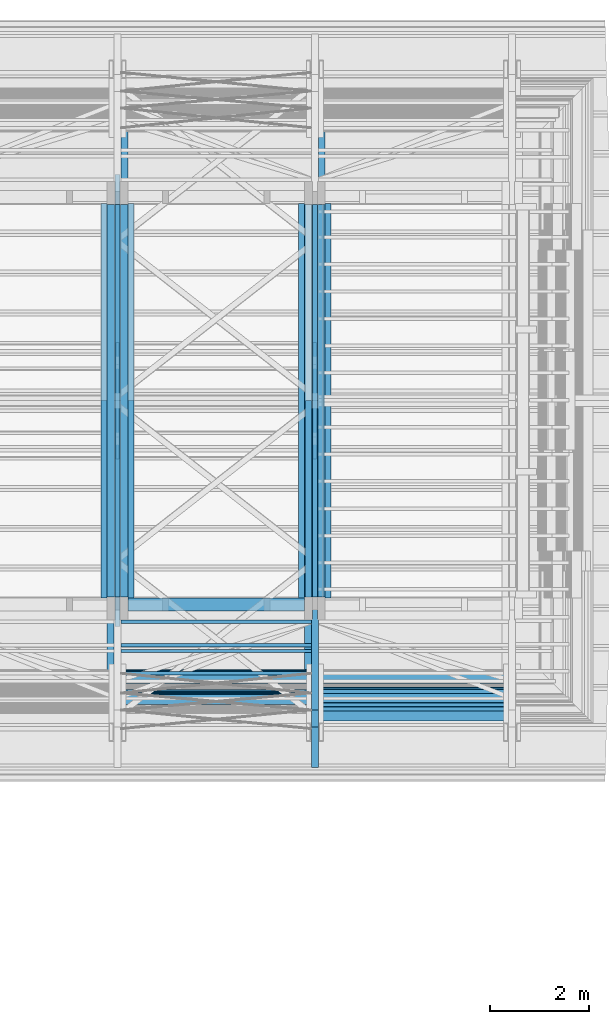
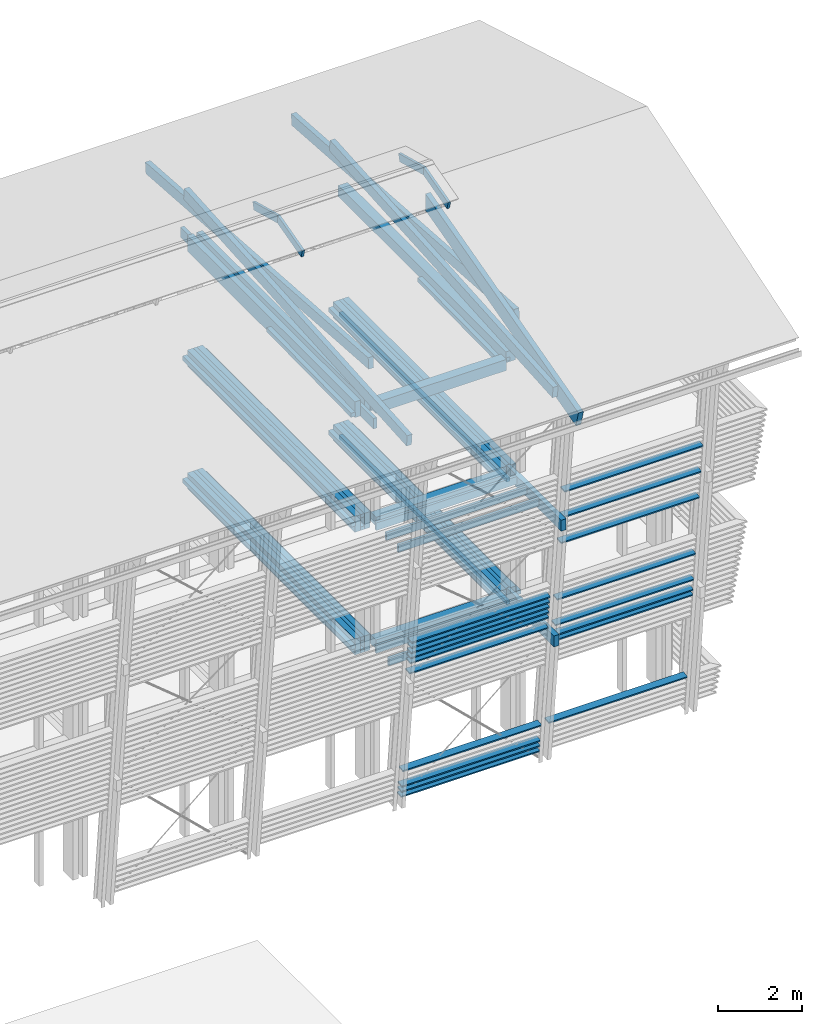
# One storey, part 20 of 48: 68 beams.
"""IFC2X3 building model written with IfcOpenShell, lengths in metres."""

from ifc_helpers import new_model, si_unit, direction, frame, origin_with_axes, place, context, subcontext, project, spatial, faceted_brep, material, element, save


model = new_model("IFC2X3")

# Units and contexts
model_context = context("Model", 3, precision=1e-06, world=origin_with_axes(), true_north=direction((0.0, 1.0, 0.0)))
body_context = subcontext(model_context, "Body", "Model", "MODEL_VIEW")
ifc_project = project(units=[si_unit("LENGTHUNIT", "METRE"), si_unit("AREAUNIT", "SQUARE_METRE"), si_unit("VOLUMEUNIT", "CUBIC_METRE"), si_unit("PLANEANGLEUNIT", "RADIAN")], contexts=[model_context])

# Site, building, storey
site_placement = place(None, origin_with_axes())
site = spatial("IfcSite", under=ifc_project, at=site_placement, CompositionType="ELEMENT")
building_placement = place(site_placement, origin_with_axes())
building = spatial("IfcBuilding", under=site, at=building_placement, Name="Building 1", CompositionType="ELEMENT")
storey_placement = place(building_placement, origin_with_axes())
storey = spatial("IfcBuildingStorey", under=building, at=storey_placement, Name="Storey 1", CompositionType="ELEMENT", Elevation=0.0)

# Beams
ifc_material_1 = material(Name="GL28h")
beam_1_placement = place(storey_placement, frame((61.7597437, -189.2071519, 10.820019), z_axis=(0.0, -0.0149983, 0.9998875), x_axis=(0.0, -0.9998875, -0.0149983)))
element("IfcBeam", 1, at=beam_1_placement, inside=storey, material=ifc_material_1, Name="Sous-glace", context=body_context, shape_type="Brep", body=[
    faceted_brep([(4.0020498, -0.06, 0.06), (4.0038498, -0.06, -0.06), (4.0038498, 0.06, -0.06), (4.0020498, 0.06, 0.06), (0.0018, -0.06, -0.06), (0.0018, 0.06, -0.06), (0.0, -0.06, 0.06), (0.0, 0.06, 0.06)], [[[0, 1, 2, 3]], [[2, 1, 4, 5]], [[1, 0, 6, 4]], [[5, 4, 6, 7]], [[3, 2, 5, 7]], [[0, 3, 7, 6]]]),
])
beam_2_placement = place(storey_placement, frame((61.6197437, -185.2264881, 3.985), z_axis=(0.0, 0.0, 1.0), x_axis=(0.0, -1.0, 0.0)))
element("IfcBeam", 2, at=beam_2_placement, inside=storey, material=ifc_material_1, Name="Sommier", context=body_context, shape_type="Brep", body=[
    faceted_brep([(7.9631634, 0.08, 0.23), (7.9631634, 0.08, -0.23), (0.0, 0.08, -0.23), (0.0, 0.08, 0.23), (0.0, -0.08, -0.23), (0.0, -0.08, 0.23), (7.9631634, -0.08, -0.23), (7.9631634, -0.08, 0.23)], [[[0, 1, 2, 3]], [[2, 4, 5, 3]], [[6, 7, 5, 4]], [[1, 6, 4, 2]], [[7, 6, 1, 0]], [[7, 0, 3, 5]]]),
])
beam_3_placement = place(storey_placement, frame((61.4897437, -185.2264881, 4.165), z_axis=(0.0, 0.0, 1.0), x_axis=(0.0, -1.0, 0.0)))
element("IfcBeam", 3, at=beam_3_placement, inside=storey, material=ifc_material_1, Name="Sommier", context=body_context, shape_type="Brep", body=[
    faceted_brep([(0.0, -0.05, -0.05), (0.0, -0.05, 0.05), (0.0, 0.05, 0.05), (0.0, 0.05, -0.05), (7.9631634, -0.05, 0.05), (7.9631634, 0.05, 0.05), (7.9631634, -0.05, -0.05), (7.9631634, 0.05, -0.05)], [[[0, 1, 2, 3]], [[2, 1, 4, 5]], [[1, 0, 6, 4]], [[5, 4, 6, 7]], [[3, 2, 5, 7]], [[0, 3, 7, 6]]]),
])
beam_4_placement = place(storey_placement, frame((61.6197437, -185.2264881, 7.545), z_axis=(0.0, 0.0, 1.0), x_axis=(0.0, -1.0, 0.0)))
element("IfcBeam", 4, at=beam_4_placement, inside=storey, material=ifc_material_1, Name="Sommier", context=body_context, shape_type="Brep", body=[
    faceted_brep([(7.9631634, 0.08, 0.23), (7.9631634, 0.08, -0.23), (0.0, 0.08, -0.23), (0.0, 0.08, 0.23), (0.0, -0.08, -0.23), (0.0, -0.08, 0.23), (7.9631634, -0.08, -0.23), (7.9631634, -0.08, 0.23)], [[[0, 1, 2, 3]], [[2, 4, 5, 3]], [[6, 7, 5, 4]], [[1, 6, 4, 2]], [[7, 6, 1, 0]], [[7, 0, 3, 5]]]),
])
ifc_material_2 = material(Name="Moabi")
beam_5_placement = place(storey_placement, frame((69.3927441, -195.5958059, 8.5102144), z_axis=(0.0, 0.9945219, 0.1045285), x_axis=(-1.0, 0.0, 0.0)))
element("IfcBeam", 5, at=beam_5_placement, inside=storey, material=ifc_material_2, Name="garde corp", context=body_context, shape_type="Brep", body=[
    faceted_brep([(3.806, 0.02, -0.1), (3.806, -0.02, -0.1), (0.0, -0.02, -0.1), (0.0, 0.02, -0.1), (3.806, -0.02, 0.1), (0.0, -0.02, 0.1), (3.806, 0.02, 0.1), (0.0, 0.02, 0.1)], [[[0, 1, 2, 3]], [[1, 4, 5, 2]], [[4, 6, 7, 5]], [[6, 0, 3, 7]], [[1, 0, 6, 4]], [[7, 3, 2, 5]]]),
])
beam_6_placement = place(storey_placement, frame((61.2197437, -189.2071519, 10.8200184), z_axis=(0.0, -0.0149983, 0.9998875), x_axis=(0.0, -0.9998875, -0.0149983)))
element("IfcBeam", 6, at=beam_6_placement, inside=storey, material=ifc_material_1, Name="Sous-glace", context=body_context, shape_type="Brep", body=[
    faceted_brep([(4.0020498, -0.06, 0.06), (4.0038498, -0.06, -0.06), (4.0038498, 0.06, -0.06), (4.0020498, 0.06, 0.06), (0.0018, -0.06, -0.06), (0.0018, 0.06, -0.06), (0.0, -0.06, 0.06), (0.0, 0.06, 0.06)], [[[0, 1, 2, 3]], [[2, 1, 4, 5]], [[1, 0, 6, 4]], [[5, 4, 6, 7]], [[3, 2, 5, 7]], [[0, 3, 7, 6]]]),
])
beam_7_placement = place(storey_placement, frame((65.3597437, -189.2071699, 10.8200187), z_axis=(0.0, -0.0149983, 0.9998875), x_axis=(0.0, -0.9998875, -0.0149983)))
element("IfcBeam", 7, at=beam_7_placement, inside=storey, material=ifc_material_1, Name="Sous-glace", context=body_context, shape_type="Brep", body=[
    faceted_brep([(4.0020318, -0.06, 0.06), (4.0038318, -0.06, -0.06), (4.0038498, 0.06, -0.06), (4.0020498, 0.06, 0.06), (0.0018, -0.06, -0.06), (0.0018, 0.06, -0.06), (0.0, -0.06, 0.06), (0.0, 0.06, 0.06)], [[[0, 1, 2, 3]], [[2, 1, 4, 5]], [[1, 0, 6, 4]], [[5, 4, 6, 7]], [[3, 2, 5, 7]], [[0, 3, 7, 6]]]),
])
beam_8_placement = place(storey_placement, frame((69.3927439, -195.2445903, 5.1686208), z_axis=(0.0, 0.9945219, 0.1045285), x_axis=(-1.0, 0.0, 0.0)))
element("IfcBeam", 8, at=beam_8_placement, inside=storey, material=ifc_material_2, Name="garde corp", context=body_context, shape_type="Brep", body=[
    faceted_brep([(3.8048055, 0.02, -0.1), (3.8048055, -0.02, -0.1), (0.0, -0.02, -0.1), (0.0, 0.02, -0.1), (3.8048055, -0.02, 0.1), (0.0, -0.02, 0.1), (3.8048055, 0.02, 0.1), (0.0, 0.02, 0.1)], [[[0, 1, 2, 3]], [[1, 4, 5, 2]], [[4, 6, 7, 5]], [[6, 0, 3, 7]], [[1, 0, 6, 4]], [[7, 3, 2, 5]]]),
])
beam_9_placement = place(storey_placement, frame((69.3927439, -195.1107938, 3.8956328), z_axis=(0.0, 0.9945219, 0.1045285), x_axis=(-1.0, 0.0, 0.0)))
element("IfcBeam", 9, at=beam_9_placement, inside=storey, material=ifc_material_2, Name="garde corp", context=body_context, shape_type="Brep", body=[
    faceted_brep([(3.8047069, 0.02, -0.1), (3.8047071, -0.02, -0.1), (0.0, -0.02, -0.1), (0.0, 0.02, -0.1), (3.8047071, -0.02, 0.1), (0.0, -0.02, 0.1), (3.8047071, 0.02, 0.1), (0.0, 0.02, 0.1)], [[[0, 1, 2, 3]], [[1, 4, 5, 2]], [[4, 6, 7, 5]], [[6, 0, 3, 7]], [[1, 0, 6, 4]], [[7, 3, 2, 5]]]),
])
for number, where, z_axis, x_axis, name in (
    (10, (69.3927441, -194.843201, 1.3496567), (0.0, 0.9945219, 0.1045285), (-1.0, 0.0, 0.0), "garde corp"),
    (11, (65.3927441, -194.7595782, 0.5540392), (0.0, 0.9945219, 0.1045285), (-1.0, 0.0, 0.0), "garde corp"),
):
    element("IfcBeam", number, at=place(storey_placement, frame(where, z_axis=z_axis, x_axis=x_axis)), inside=storey, material=ifc_material_2, Name=name, context=body_context, shape_type="Brep", body=[
        faceted_brep([(3.806, 0.02, -0.1), (3.806, -0.02, -0.1), (0.0, -0.02, -0.1), (0.0, 0.02, -0.1), (3.806, -0.02, 0.1), (0.0, -0.02, 0.1), (3.806, 0.02, 0.1), (0.0, 0.02, 0.1)], [[[0, 1, 2, 3]], [[1, 4, 5, 2]], [[4, 6, 7, 5]], [[6, 0, 3, 7]], [[1, 0, 6, 4]], [[7, 3, 2, 5]]]),
    ])
beam_10_placement = place(storey_placement, frame((65.7597437, -185.2064881, 4.015), z_axis=(0.0, 0.0, 1.0), x_axis=(0.0, -1.0, 0.0)))
element("IfcBeam", 12, at=beam_10_placement, inside=storey, material=ifc_material_1, Name="Sous-glace", context=body_context, shape_type="Brep", body=[
    faceted_brep([(0.0, -0.06, -0.06), (0.0, 0.06, -0.06), (8.0031634, 0.06, -0.06), (8.0031634, -0.06, -0.06), (0.0, 0.06, 0.06), (8.0031634, 0.06, 0.06), (0.0, -0.06, 0.06), (8.0031634, -0.06, 0.06)], [[[0, 1, 2, 3]], [[1, 4, 5, 2]], [[4, 6, 7, 5]], [[6, 0, 3, 7]], [[0, 6, 4, 1]], [[5, 7, 3, 2]]]),
])
for number, where, z_axis, x_axis, name in (
    (13, (69.3927439, -195.1609675, 4.3730033), (0.0, 0.9945219, 0.1045285), (-1.0, 0.0, 0.0), "garde corp"),
    (14, (69.3927439, -195.1275184, 4.0547563), (0.0, 0.9945219, 0.1045285), (-1.0, 0.0, 0.0), "garde corp"),
):
    element("IfcBeam", number, at=place(storey_placement, frame(where, z_axis=z_axis, x_axis=x_axis)), inside=storey, material=ifc_material_2, Name=name, context=body_context, shape_type="Brep", body=[
        faceted_brep([(3.8048051, 0.02, -0.1), (3.8048051, -0.02, -0.1), (0.0, -0.02, -0.1), (0.0, 0.02, -0.1), (3.8048051, -0.02, 0.1), (0.0, -0.02, 0.1), (3.8048051, 0.02, 0.1), (0.0, 0.02, 0.1)], [[[0, 1, 2, 3]], [[1, 4, 5, 2]], [[4, 6, 7, 5]], [[6, 0, 3, 7]], [[1, 0, 6, 4]], [[7, 3, 2, 5]]]),
    ])
for number, where, z_axis, x_axis, name in (
    (15, (69.3927441, -195.4285604, 6.9189793), (0.0, 0.9945219, 0.1045285), (-1.0, 0.0, 0.0), "garde corp"),
    (16, (69.3927441, -195.5121831, 7.7145968), (0.0, 0.9945219, 0.1045285), (-1.0, 0.0, 0.0), "garde corp"),
):
    element("IfcBeam", number, at=place(storey_placement, frame(where, z_axis=z_axis, x_axis=x_axis)), inside=storey, material=ifc_material_2, Name=name, context=body_context, shape_type="Brep", body=[
        faceted_brep([(3.806, 0.02, -0.1), (3.806, -0.02, -0.1), (0.0, -0.02, -0.1), (0.0, 0.02, -0.1), (3.806, -0.02, 0.1), (0.0, -0.02, 0.1), (3.806, 0.02, 0.1), (0.0, 0.02, 0.1)], [[[0, 1, 2, 3]], [[1, 4, 5, 2]], [[4, 6, 7, 5]], [[6, 0, 3, 7]], [[1, 0, 6, 4]], [[7, 3, 2, 5]]]),
    ])
beam_11_placement = place(storey_placement, frame((65.4897437, -196.5806087, 11.197686), z_axis=(0.0, -0.258819, 0.9659258), x_axis=(0.0, 0.9659258, 0.258819)))
element("IfcBeam", 17, at=beam_11_placement, inside=storey, material=ifc_material_1, Name="Arbalétrier", context=body_context, shape_type="Brep", body=[
    faceted_brep([(7.4053414, 0.07, -0.23), (7.5285981, 0.07, 0.23), (7.5285981, -0.07, 0.23), (7.4053414, -0.07, -0.23), (0.0, 0.07, 0.23), (0.0, -0.07, 0.23), (0.0, 0.07, -0.23), (0.0, -0.07, -0.23)], [[[0, 1, 2, 3]], [[2, 1, 4, 5]], [[1, 0, 6, 4]], [[0, 3, 7, 6]], [[3, 2, 5, 7]], [[6, 7, 5, 4]]]),
])
beam_12_placement = place(storey_placement, frame((61.2197437, -185.2064881, 4.015), z_axis=(0.0, 0.0, 1.0), x_axis=(0.0, -1.0, 0.0)))
element("IfcBeam", 18, at=beam_12_placement, inside=storey, material=ifc_material_1, Name="Sous-glace", context=body_context, shape_type="Brep", body=[
    faceted_brep([(0.0, -0.06, -0.06), (0.0, 0.06, -0.06), (8.0031634, 0.06, -0.06), (8.0031634, -0.06, -0.06), (0.0, 0.06, 0.06), (8.0031634, 0.06, 0.06), (0.0, -0.06, 0.06), (8.0031634, -0.06, 0.06)], [[[0, 1, 2, 3]], [[1, 4, 5, 2]], [[4, 6, 7, 5]], [[6, 0, 3, 7]], [[0, 6, 4, 1]], [[5, 7, 3, 2]]]),
])
beam_13_placement = place(storey_placement, frame((61.6997437, -193.3396515, 10.94), z_axis=(0.0, 0.0, 1.0), x_axis=(1.0, 0.0, 0.0)))
element("IfcBeam", 19, at=beam_13_placement, inside=storey, material=ifc_material_1, Name="Buton", context=body_context, shape_type="Brep", body=[
    faceted_brep([(0.0, 0.13, 0.16), (0.0, -0.13, 0.16), (3.58, -0.13, 0.16), (3.58, 0.13, 0.16), (0.0, -0.13, -0.16), (3.58, -0.13, -0.16), (0.0, 0.13, -0.16), (3.58, 0.13, -0.16)], [[[0, 1, 2, 3]], [[2, 1, 4, 5]], [[1, 0, 6, 4]], [[5, 4, 6, 7]], [[3, 2, 5, 7]], [[0, 3, 7, 6]]]),
])
beam_14_placement = place(storey_placement, frame((61.4897437, -190.3622807, 13.6093897), z_axis=(0.0, -0.258819, 0.9659258), x_axis=(0.0, 0.9659258, 0.258819)))
element("IfcBeam", 20, at=beam_14_placement, inside=storey, material=ifc_material_1, Name="Arbalétrier", context=body_context, shape_type="Brep", body=[
    faceted_brep([(0.0, -0.035, -0.11), (0.0, -0.035, 0.11), (0.0, 0.035, 0.11), (0.0, 0.035, -0.11), (1.2244015, -0.035, 0.11), (1.2244015, 0.035, 0.11), (1.1654527, -0.035, -0.11), (1.1654527, 0.035, -0.11)], [[[0, 1, 2, 3]], [[2, 1, 4, 5]], [[1, 0, 6, 4]], [[7, 5, 4, 6]], [[0, 3, 7, 6]], [[3, 2, 5, 7]]]),
])
beam_15_placement = place(storey_placement, frame((65.4897437, -193.1896515, 4.089), z_axis=(0.0, 0.0, 1.0), x_axis=(0.0, -1.0, 0.0)))
element("IfcBeam", 21, at=beam_15_placement, inside=storey, material=ifc_material_1, Name="Sommier Coursive", context=body_context, shape_type="Brep", body=[
    faceted_brep([(0.0, 0.05, 0.16), (0.44, 0.05, 0.16), (0.44, 0.05, -0.16), (0.0, 0.05, -0.16), (0.44, 0.07, 0.16), (0.44, 0.07, -0.16), (0.0, -0.05, 0.16), (0.44, -0.05, 0.16), (0.44, -0.07, 0.16), (2.2900003, -0.07, 0.16), (2.2900003, 0.07, 0.16), (0.0, -0.05, -0.16), (0.44, -0.05, -0.16), (0.44, -0.07, -0.16), (2.2900003, 0.07, -0.16), (2.2900003, -0.07, -0.16)], [[[0, 1, 2, 3]], [[1, 4, 5, 2]], [[4, 1, 0, 6, 7, 8, 9, 10]], [[0, 3, 11, 6]], [[11, 12, 7, 6]], [[12, 13, 8, 7]], [[2, 5, 14, 15, 13, 12, 11, 3]], [[8, 13, 15, 9]], [[5, 4, 10, 14]], [[10, 9, 15, 14]]]),
])
beam_16_placement = place(storey_placement, frame((61.6297437, -182.7509358, 11.4619485), z_axis=(0.0, 0.070184, 0.9975341), x_axis=(0.0, -0.9975341, 0.070184)))
element("IfcBeam", 22, at=beam_16_placement, inside=storey, material=ifc_material_1, Name="Entrait", context=body_context, shape_type="Brep", body=[
    faceted_brep([(0.0, 0.07, 0.16), (0.0110373, 0.07, -0.16), (0.0110373, -0.07, -0.16), (0.0, -0.07, 0.16), (10.6243711, 0.07, -0.16), (10.6243711, -0.07, -0.16), (10.6243711, 0.07, 0.16), (10.6243711, -0.07, 0.16)], [[[0, 1, 2, 3]], [[2, 1, 4, 5]], [[1, 0, 6, 4]], [[5, 4, 6, 7]], [[3, 2, 5, 7]], [[0, 3, 7, 6]]]),
])
beam_17_placement = place(storey_placement, frame((65.5497437, -185.2264881, 10.94), z_axis=(0.0, 0.0, 1.0), x_axis=(0.0, -1.0, 0.0)))
element("IfcBeam", 23, at=beam_17_placement, inside=storey, material=ifc_material_1, Name="Buton", context=body_context, shape_type="Brep", body=[
    faceted_brep([(7.9631634, 0.13, 0.16), (7.9631634, -0.13, 0.16), (7.9631634, -0.13, -0.16), (7.9631634, 0.13, -0.16), (0.0, -0.13, 0.16), (0.0, -0.13, -0.16), (0.0, 0.13, 0.16), (0.0, 0.13, -0.16)], [[[0, 1, 2, 3]], [[2, 1, 4, 5]], [[1, 0, 6, 4]], [[4, 6, 7, 5]], [[0, 3, 7, 6]], [[3, 2, 5, 7]]]),
])
beam_18_placement = place(storey_placement, frame((61.3597437, -185.2264881, 7.545), z_axis=(0.0, 0.0, 1.0), x_axis=(0.0, -1.0, 0.0)))
element("IfcBeam", 24, at=beam_18_placement, inside=storey, material=ifc_material_1, Name="Sommier", context=body_context, shape_type="Brep", body=[
    faceted_brep([(7.9631634, 0.08, 0.23), (7.9631634, 0.08, -0.23), (0.0, 0.08, -0.23), (0.0, 0.08, 0.23), (0.0, -0.08, -0.23), (0.0, -0.08, 0.23), (7.9631634, -0.08, -0.23), (7.9631634, -0.08, 0.23)], [[[0, 1, 2, 3]], [[2, 4, 5, 3]], [[6, 7, 5, 4]], [[1, 6, 4, 2]], [[7, 6, 1, 0]], [[7, 0, 3, 5]]]),
])
beam_19_placement = place(storey_placement, frame((65.2197437, -185.2064881, 4.015), z_axis=(0.0, 0.0, 1.0), x_axis=(0.0, -1.0, 0.0)))
element("IfcBeam", 25, at=beam_19_placement, inside=storey, material=ifc_material_1, Name="Sous-glace", context=body_context, shape_type="Brep", body=[
    faceted_brep([(0.0, -0.06, -0.06), (0.0, 0.06, -0.06), (8.0031634, 0.06, -0.06), (8.0031634, -0.06, -0.06), (0.0, 0.06, 0.06), (8.0031634, 0.06, 0.06), (0.0, -0.06, 0.06), (8.0031634, -0.06, 0.06)], [[[0, 1, 2, 3]], [[1, 4, 5, 2]], [[4, 6, 7, 5]], [[6, 0, 3, 7]], [[0, 6, 4, 1]], [[5, 7, 3, 2]]]),
])
for number, where, z_axis, x_axis in (
    (26, (61.5597437, -194.1646515, 7.699), (0.0, 0.0, 1.0), (1.0, 0.0, 0.0)),
    (27, (61.5597437, -194.7346515, 7.699), (0.0, 0.0, 1.0), (1.0, 0.0, 0.0)),
    (28, (61.5597437, -193.6846515, 7.699), (0.0, 0.0, 1.0), (1.0, 0.0, 0.0)),
):
    element("IfcBeam", number, at=place(storey_placement, frame(where, z_axis=z_axis, x_axis=x_axis)), inside=storey, material=ifc_material_1, Name="Solive", context=body_context, shape_type="Brep", body=[
        faceted_brep([(3.86, 0.035, 0.11), (3.86, 0.035, -0.11), (0.0, 0.035, -0.11), (0.0, 0.035, 0.11), (3.86, -0.035, -0.11), (0.0, -0.035, -0.11), (3.86, -0.035, 0.11), (0.0, -0.035, 0.11)], [[[0, 1, 2, 3]], [[1, 4, 5, 2]], [[4, 6, 7, 5]], [[6, 0, 3, 7]], [[1, 0, 6, 4]], [[7, 3, 2, 5]]]),
    ])
for number, where, z_axis, x_axis, name in (
    (29, (61.2197437, -185.2064881, 7.575), (0.0, 0.0, 1.0), (0.0, -1.0, 0.0), "Sous-glace"),
    (30, (65.2197437, -185.2064881, 7.575), (0.0, 0.0, 1.0), (0.0, -1.0, 0.0), "Sous-glace"),
    (31, (61.7597437, -185.2064881, 7.575), (0.0, 0.0, 1.0), (0.0, -1.0, 0.0), "Sous-glace"),
):
    element("IfcBeam", number, at=place(storey_placement, frame(where, z_axis=z_axis, x_axis=x_axis)), inside=storey, material=ifc_material_1, Name=name, context=body_context, shape_type="Brep", body=[
        faceted_brep([(0.0, -0.06, -0.06), (0.0, 0.06, -0.06), (8.0031634, 0.06, -0.06), (8.0031634, -0.06, -0.06), (0.0, 0.06, 0.06), (8.0031634, 0.06, 0.06), (0.0, -0.06, 0.06), (8.0031634, -0.06, 0.06)], [[[0, 1, 2, 3]], [[1, 4, 5, 2]], [[4, 6, 7, 5]], [[6, 0, 3, 7]], [[0, 6, 4, 1]], [[5, 7, 3, 2]]]),
    ])
beam_20_placement = place(storey_placement, frame((65.4897437, -188.0546173, 13.6095929), z_axis=(0.0, 0.258819, 0.9659258), x_axis=(0.0, -0.9659258, 0.258819)))
element("IfcBeam", 32, at=beam_20_placement, inside=storey, material=ifc_material_1, Name="Arbalétrier", context=body_context, shape_type="Brep", body=[
    faceted_brep([(0.0, -0.035, -0.11), (0.0, -0.035, 0.11), (0.0, 0.035, 0.11), (0.0, 0.035, -0.11), (1.2236163, -0.035, 0.11), (1.2236163, 0.035, 0.11), (1.1646675, -0.035, -0.11), (1.1646675, 0.035, -0.11)], [[[0, 1, 2, 3]], [[2, 1, 4, 5]], [[1, 0, 6, 4]], [[7, 5, 4, 6]], [[0, 3, 7, 6]], [[3, 2, 5, 7]]]),
])
beam_21_placement = place(storey_placement, frame((61.5597437, -194.2816702, 4.139), z_axis=(0.0, 0.0, 1.0), x_axis=(1.0, 0.0, 0.0)))
element("IfcBeam", 33, at=beam_21_placement, inside=storey, material=ifc_material_1, Name="Solive", context=body_context, shape_type="Brep", body=[
    faceted_brep([(3.86, 0.035, 0.11), (3.86, 0.035, -0.11), (0.0, 0.035, -0.11), (0.0, 0.035, 0.11), (3.86, -0.035, -0.11), (0.0, -0.035, -0.11), (3.86, -0.035, 0.11), (0.0, -0.035, 0.11)], [[[0, 1, 2, 3]], [[1, 4, 5, 2]], [[4, 6, 7, 5]], [[6, 0, 3, 7]], [[1, 0, 6, 4]], [[7, 3, 2, 5]]]),
])
beam_22_placement = place(storey_placement, frame((61.7597437, -185.2064881, 4.015), z_axis=(0.0, 0.0, 1.0), x_axis=(0.0, -1.0, 0.0)))
element("IfcBeam", 34, at=beam_22_placement, inside=storey, material=ifc_material_1, Name="Sous-glace", context=body_context, shape_type="Brep", body=[
    faceted_brep([(0.0, -0.06, -0.06), (0.0, 0.06, -0.06), (8.0031634, 0.06, -0.06), (8.0031634, -0.06, -0.06), (0.0, 0.06, 0.06), (8.0031634, 0.06, 0.06), (0.0, -0.06, 0.06), (8.0031634, -0.06, 0.06)], [[[0, 1, 2, 3]], [[1, 4, 5, 2]], [[4, 6, 7, 5]], [[6, 0, 3, 7]], [[0, 6, 4, 1]], [[5, 7, 3, 2]]]),
])
beam_23_placement = place(storey_placement, frame((61.4897437, -185.2264881, 7.725), z_axis=(0.0, 0.0, 1.0), x_axis=(0.0, -1.0, 0.0)))
element("IfcBeam", 35, at=beam_23_placement, inside=storey, material=ifc_material_1, Name="Sommier", context=body_context, shape_type="Brep", body=[
    faceted_brep([(0.0, -0.05, -0.05), (0.0, -0.05, 0.05), (0.0, 0.05, 0.05), (0.0, 0.05, -0.05), (7.9631634, -0.05, 0.05), (7.9631634, 0.05, 0.05), (7.9631634, -0.05, -0.05), (7.9631634, 0.05, -0.05)], [[[0, 1, 2, 3]], [[2, 1, 4, 5]], [[1, 0, 6, 4]], [[5, 4, 6, 7]], [[3, 2, 5, 7]], [[0, 3, 7, 6]]]),
])
beam_24_placement = place(storey_placement, frame((61.6197437, -185.2264881, 10.87), z_axis=(0.0, 0.0, 1.0), x_axis=(0.0, -1.0, 0.0)))
element("IfcBeam", 36, at=beam_24_placement, inside=storey, material=ifc_material_1, Name="Sommier", context=body_context, shape_type="Brep", body=[
    faceted_brep([(7.9631634, 0.08, 0.23), (7.9631634, 0.08, -0.23), (0.0, 0.08, -0.23), (0.0, 0.08, 0.23), (0.0, -0.08, -0.23), (0.0, -0.08, 0.23), (7.9631634, -0.08, -0.23), (7.9631634, -0.08, 0.23)], [[[0, 1, 2, 3]], [[2, 4, 5, 3]], [[6, 7, 5, 4]], [[1, 6, 4, 2]], [[7, 6, 1, 0]], [[7, 0, 3, 5]]]),
])
beam_25_placement = place(storey_placement, frame((65.3497437, -195.6652037, 11.4619485), z_axis=(0.0, -0.070184, 0.9975341), x_axis=(0.0, 0.9975341, 0.070184)))
element("IfcBeam", 37, at=beam_25_placement, inside=storey, material=ifc_material_1, Name="Entrait", context=body_context, shape_type="Brep", body=[
    faceted_brep([(0.0, 0.07, 0.16), (0.0110373, 0.07, -0.16), (0.0110373, -0.07, -0.16), (0.0, -0.07, 0.16), (10.6243711, 0.07, -0.16), (10.6243711, -0.07, -0.16), (10.6243711, 0.07, 0.16), (10.6243711, -0.07, 0.16)], [[[0, 1, 2, 3]], [[2, 1, 4, 5]], [[1, 0, 6, 4]], [[5, 4, 6, 7]], [[3, 2, 5, 7]], [[0, 3, 7, 6]]]),
])
for number, where, z_axis, x_axis in (
    (38, (61.3597437, -185.2264881, 10.87), (0.0, 0.0, 1.0), (0.0, -1.0, 0.0)),
    (39, (61.3597437, -185.2264881, 3.985), (0.0, 0.0, 1.0), (0.0, -1.0, 0.0)),
):
    element("IfcBeam", number, at=place(storey_placement, frame(where, z_axis=z_axis, x_axis=x_axis)), inside=storey, material=ifc_material_1, Name="Sommier", context=body_context, shape_type="Brep", body=[
        faceted_brep([(7.9631634, 0.08, 0.23), (7.9631634, 0.08, -0.23), (0.0, 0.08, -0.23), (0.0, 0.08, 0.23), (0.0, -0.08, -0.23), (0.0, -0.08, 0.23), (7.9631634, -0.08, -0.23), (7.9631634, -0.08, 0.23)], [[[0, 1, 2, 3]], [[2, 4, 5, 3]], [[6, 7, 5, 4]], [[1, 6, 4, 2]], [[7, 6, 1, 0]], [[7, 0, 3, 5]]]),
    ])
beam_26_placement = place(storey_placement, frame((65.4897437, -185.2264881, 4.165), z_axis=(0.0, 0.0, 1.0), x_axis=(0.0, -1.0, 0.0)))
element("IfcBeam", 40, at=beam_26_placement, inside=storey, material=ifc_material_1, Name="Sommier", context=body_context, shape_type="Brep", body=[
    faceted_brep([(0.0, -0.05, -0.05), (0.0, -0.05, 0.05), (0.0, 0.05, 0.05), (0.0, 0.05, -0.05), (7.9631634, -0.05, 0.05), (7.9631634, 0.05, 0.05), (7.9631634, -0.05, -0.05), (7.9631634, 0.05, -0.05)], [[[0, 1, 2, 3]], [[2, 1, 4, 5]], [[1, 0, 6, 4]], [[5, 4, 6, 7]], [[3, 2, 5, 7]], [[0, 3, 7, 6]]]),
])
beam_27_placement = place(storey_placement, frame((61.4897437, -184.6264881, 10.77), z_axis=(0.0, 0.0, 1.0), x_axis=(0.0, -1.0, 0.0)))
element("IfcBeam", 41, at=beam_27_placement, inside=storey, material=ifc_material_1, Name="Sommier", context=body_context, shape_type="Brep", body=[
    faceted_brep([(9.1631634, 0.05, -0.15), (9.1631634, 0.05, 0.15), (9.1631634, -0.05, 0.15), (9.1631634, -0.05, -0.15), (0.0, 0.05, 0.15), (0.0, 0.05, -0.15), (0.0, -0.05, -0.15), (0.0, -0.05, 0.15)], [[[0, 1, 2, 3]], [[4, 5, 6, 7]], [[3, 6, 5, 0]], [[2, 7, 6, 3]], [[1, 4, 7, 2]], [[0, 5, 4, 1]]]),
])
beam_28_placement = place(storey_placement, frame((61.3497437, -195.6652037, 11.4619485), z_axis=(0.0, -0.070184, 0.9975341), x_axis=(0.0, 0.9975341, 0.070184)))
element("IfcBeam", 42, at=beam_28_placement, inside=storey, material=ifc_material_1, Name="Entrait", context=body_context, shape_type="Brep", body=[
    faceted_brep([(0.0, 0.07, 0.16), (0.0110373, 0.07, -0.16), (0.0110373, -0.07, -0.16), (0.0, -0.07, 0.16), (10.6243711, 0.07, -0.16), (10.6243711, -0.07, -0.16), (10.6243711, 0.07, 0.16), (10.6243711, -0.07, 0.16)], [[[0, 1, 2, 3]], [[2, 1, 4, 5]], [[1, 0, 6, 4]], [[5, 4, 6, 7]], [[3, 2, 5, 7]], [[0, 3, 7, 6]]]),
])
for number, where, z_axis, x_axis in (
    (43, (61.4897437, -185.2264881, 7.365), (0.0, 0.0, 1.0), (0.0, -1.0, 0.0)),
    (44, (65.4897437, -185.2264881, 3.805), (0.0, 0.0, 1.0), (0.0, -1.0, 0.0)),
    (45, (65.4897437, -185.2264881, 10.87), (0.0, 0.0, 1.0), (0.0, -1.0, 0.0)),
):
    element("IfcBeam", number, at=place(storey_placement, frame(where, z_axis=z_axis, x_axis=x_axis)), inside=storey, material=ifc_material_1, Name="Sommier", context=body_context, shape_type="Brep", body=[
        faceted_brep([(0.0, -0.05, -0.05), (0.0, -0.05, 0.05), (0.0, 0.05, 0.05), (0.0, 0.05, -0.05), (7.9631634, -0.05, 0.05), (7.9631634, 0.05, 0.05), (7.9631634, -0.05, -0.05), (7.9631634, 0.05, -0.05)], [[[0, 1, 2, 3]], [[2, 1, 4, 5]], [[1, 0, 6, 4]], [[5, 4, 6, 7]], [[3, 2, 5, 7]], [[0, 3, 7, 6]]]),
    ])
beam_29_placement = place(storey_placement, frame((65.3597437, -185.2264881, 7.545), z_axis=(0.0, 0.0, 1.0), x_axis=(0.0, -1.0, 0.0)))
element("IfcBeam", 46, at=beam_29_placement, inside=storey, material=ifc_material_1, Name="Sommier", context=body_context, shape_type="Brep", body=[
    faceted_brep([(7.9631634, 0.08, 0.23), (7.9631634, 0.08, -0.23), (0.0, 0.08, -0.23), (0.0, 0.08, 0.23), (0.0, -0.08, -0.23), (0.0, -0.08, 0.23), (7.9631634, -0.08, -0.23), (7.9631634, -0.08, 0.23)], [[[0, 1, 2, 3]], [[2, 4, 5, 3]], [[6, 7, 5, 4]], [[1, 6, 4, 2]], [[7, 6, 1, 0]], [[7, 0, 3, 5]]]),
])
beam_30_placement = place(storey_placement, frame((61.4897437, -185.2264881, 3.805), z_axis=(0.0, 0.0, 1.0), x_axis=(0.0, -1.0, 0.0)))
element("IfcBeam", 47, at=beam_30_placement, inside=storey, material=ifc_material_1, Name="Sommier", context=body_context, shape_type="Brep", body=[
    faceted_brep([(0.0, -0.05, -0.05), (0.0, -0.05, 0.05), (0.0, 0.05, 0.05), (0.0, 0.05, -0.05), (7.9631634, -0.05, 0.05), (7.9631634, 0.05, 0.05), (7.9631634, -0.05, -0.05), (7.9631634, 0.05, -0.05)], [[[0, 1, 2, 3]], [[2, 1, 4, 5]], [[1, 0, 6, 4]], [[5, 4, 6, 7]], [[3, 2, 5, 7]], [[0, 3, 7, 6]]]),
])
beam_31_placement = place(storey_placement, frame((61.4897437, -188.0546173, 13.6095929), z_axis=(0.0, 0.258819, 0.9659258), x_axis=(0.0, -0.9659258, 0.258819)))
element("IfcBeam", 48, at=beam_31_placement, inside=storey, material=ifc_material_1, Name="Arbalétrier", context=body_context, shape_type="Brep", body=[
    faceted_brep([(0.0, -0.035, -0.11), (0.0, -0.035, 0.11), (0.0, 0.035, 0.11), (0.0, 0.035, -0.11), (1.2236163, -0.035, 0.11), (1.2236163, 0.035, 0.11), (1.1646675, -0.035, -0.11), (1.1646675, 0.035, -0.11)], [[[0, 1, 2, 3]], [[2, 1, 4, 5]], [[1, 0, 6, 4]], [[7, 5, 4, 6]], [[0, 3, 7, 6]], [[3, 2, 5, 7]]]),
])
beam_32_placement = place(storey_placement, frame((65.6197437, -185.2264881, 7.545), z_axis=(0.0, 0.0, 1.0), x_axis=(0.0, -1.0, 0.0)))
element("IfcBeam", 49, at=beam_32_placement, inside=storey, material=ifc_material_1, Name="Sommier", context=body_context, shape_type="Brep", body=[
    faceted_brep([(7.9631634, 0.08, 0.23), (7.9631634, 0.08, -0.23), (0.0, 0.08, -0.23), (0.0, 0.08, 0.23), (0.0, -0.08, -0.23), (0.0, -0.08, 0.23), (7.9631634, -0.08, -0.23), (7.9631634, -0.08, 0.23)], [[[0, 1, 2, 3]], [[2, 4, 5, 3]], [[6, 7, 5, 4]], [[1, 6, 4, 2]], [[7, 6, 1, 0]], [[7, 0, 3, 5]]]),
])
beam_33_placement = place(storey_placement, frame((65.4897437, -185.2264881, 7.365), z_axis=(0.0, 0.0, 1.0), x_axis=(0.0, -1.0, 0.0)))
element("IfcBeam", 50, at=beam_33_placement, inside=storey, material=ifc_material_1, Name="Sommier", context=body_context, shape_type="Brep", body=[
    faceted_brep([(0.0, -0.05, -0.05), (0.0, -0.05, 0.05), (0.0, 0.05, 0.05), (0.0, 0.05, -0.05), (7.9631634, -0.05, 0.05), (7.9631634, 0.05, 0.05), (7.9631634, -0.05, -0.05), (7.9631634, 0.05, -0.05)], [[[0, 1, 2, 3]], [[2, 1, 4, 5]], [[1, 0, 6, 4]], [[5, 4, 6, 7]], [[3, 2, 5, 7]], [[0, 3, 7, 6]]]),
])
beam_34_placement = place(storey_placement, frame((65.4897437, -193.1896515, 7.649), z_axis=(0.0, 0.0, 1.0), x_axis=(0.0, -1.0, 0.0)))
element("IfcBeam", 51, at=beam_34_placement, inside=storey, material=ifc_material_1, Name="Sommier Coursive", context=body_context, shape_type="Brep", body=[
    faceted_brep([(0.0, -0.05, -0.16), (0.44, -0.05, -0.16), (0.44, -0.05, 0.16), (0.0, -0.05, 0.16), (0.44, -0.07, -0.16), (0.44, -0.07, 0.16), (0.0, 0.05, 0.16), (0.0, 0.05, -0.16), (2.6285375, -0.07, 0.16), (2.6285375, 0.07, 0.16), (0.44, 0.07, 0.16), (0.44, 0.05, 0.16), (0.44, 0.05, -0.16), (0.44, 0.07, -0.16), (2.6285375, -0.07, -0.16), (2.6285375, 0.07, -0.16)], [[[0, 1, 2, 3]], [[1, 4, 5, 2]], [[0, 3, 6, 7]], [[3, 2, 5, 8, 9, 10, 11, 6]], [[6, 11, 12, 7]], [[11, 10, 13, 12]], [[5, 4, 14, 8]], [[1, 0, 7, 12, 13, 15, 14, 4]], [[13, 10, 9, 15]], [[9, 8, 14, 15]]]),
])
beam_35_placement = place(storey_placement, frame((65.6197437, -185.2264881, 3.985), z_axis=(0.0, 0.0, 1.0), x_axis=(0.0, -1.0, 0.0)))
element("IfcBeam", 52, at=beam_35_placement, inside=storey, material=ifc_material_1, Name="Sommier", context=body_context, shape_type="Brep", body=[
    faceted_brep([(7.9631634, 0.08, 0.23), (7.9631634, 0.08, -0.23), (0.0, 0.08, -0.23), (0.0, 0.08, 0.23), (0.0, -0.08, -0.23), (0.0, -0.08, 0.23), (7.9631634, -0.08, -0.23), (7.9631634, -0.08, 0.23)], [[[0, 1, 2, 3]], [[2, 4, 5, 3]], [[6, 7, 5, 4]], [[1, 6, 4, 2]], [[7, 6, 1, 0]], [[7, 0, 3, 5]]]),
])
beam_36_placement = place(storey_placement, frame((65.4897437, -185.2264881, 7.725), z_axis=(0.0, 0.0, 1.0), x_axis=(0.0, -1.0, 0.0)))
element("IfcBeam", 53, at=beam_36_placement, inside=storey, material=ifc_material_1, Name="Sommier", context=body_context, shape_type="Brep", body=[
    faceted_brep([(0.0, -0.05, -0.05), (0.0, -0.05, 0.05), (0.0, 0.05, 0.05), (0.0, 0.05, -0.05), (7.9631634, -0.05, 0.05), (7.9631634, 0.05, 0.05), (7.9631634, -0.05, -0.05), (7.9631634, 0.05, -0.05)], [[[0, 1, 2, 3]], [[2, 1, 4, 5]], [[1, 0, 6, 4]], [[5, 4, 6, 7]], [[3, 2, 5, 7]], [[0, 3, 7, 6]]]),
])
beam_37_placement = place(storey_placement, frame((65.6297437, -182.7509358, 11.4619485), z_axis=(0.0, 0.070184, 0.9975341), x_axis=(0.0, -0.9975341, 0.070184)))
element("IfcBeam", 54, at=beam_37_placement, inside=storey, material=ifc_material_1, Name="Entrait", context=body_context, shape_type="Brep", body=[
    faceted_brep([(0.0, 0.07, 0.16), (0.0110373, 0.07, -0.16), (0.0110373, -0.07, -0.16), (0.0, -0.07, 0.16), (10.6243711, 0.07, -0.16), (10.6243711, -0.07, -0.16), (10.6243711, 0.07, 0.16), (10.6243711, -0.07, 0.16)], [[[0, 1, 2, 3]], [[2, 1, 4, 5]], [[1, 0, 6, 4]], [[5, 4, 6, 7]], [[3, 2, 5, 7]], [[0, 3, 7, 6]]]),
])
beam_38_placement = place(storey_placement, frame((65.3597437, -185.2264881, 3.985), z_axis=(0.0, 0.0, 1.0), x_axis=(0.0, -1.0, 0.0)))
element("IfcBeam", 55, at=beam_38_placement, inside=storey, material=ifc_material_1, Name="Sommier", context=body_context, shape_type="Brep", body=[
    faceted_brep([(7.9631634, 0.08, 0.23), (7.9631634, 0.08, -0.23), (0.0, 0.08, -0.23), (0.0, 0.08, 0.23), (0.0, -0.08, -0.23), (0.0, -0.08, 0.23), (7.9631634, -0.08, -0.23), (7.9631634, -0.08, 0.23)], [[[0, 1, 2, 3]], [[2, 4, 5, 3]], [[6, 7, 5, 4]], [[1, 6, 4, 2]], [[7, 6, 1, 0]], [[7, 0, 3, 5]]]),
])
beam_39_placement = place(storey_placement, frame((65.4897437, -190.3622807, 13.6093897), z_axis=(0.0, -0.258819, 0.9659258), x_axis=(0.0, 0.9659258, 0.258819)))
element("IfcBeam", 56, at=beam_39_placement, inside=storey, material=ifc_material_1, Name="Arbalétrier", context=body_context, shape_type="Brep", body=[
    faceted_brep([(0.0, -0.035, -0.11), (0.0, -0.035, 0.11), (0.0, 0.035, 0.11), (0.0, 0.035, -0.11), (1.2244015, -0.035, 0.11), (1.2244015, 0.035, 0.11), (1.1654527, -0.035, -0.11), (1.1654527, 0.035, -0.11)], [[[0, 1, 2, 3]], [[2, 1, 4, 5]], [[1, 0, 6, 4]], [[7, 5, 4, 6]], [[0, 3, 7, 6]], [[3, 2, 5, 7]]]),
])
for number, where, z_axis, x_axis in (
    (57, (61.6997437, -193.3396515, 4.085), (0.0, 0.0, 1.0), (1.0, 0.0, 0.0)),
    (58, (61.6997437, -193.3396515, 7.645), (0.0, 0.0, 1.0), (1.0, 0.0, 0.0)),
):
    element("IfcBeam", number, at=place(storey_placement, frame(where, z_axis=z_axis, x_axis=x_axis)), inside=storey, material=ifc_material_1, Name="Buton", context=body_context, shape_type="Brep", body=[
        faceted_brep([(0.0, 0.13, 0.13), (0.0, -0.13, 0.13), (3.58, -0.13, 0.13), (3.58, 0.13, 0.13), (0.0, -0.13, -0.13), (3.58, -0.13, -0.13), (0.0, 0.13, -0.13), (3.58, 0.13, -0.13)], [[[0, 1, 2, 3]], [[2, 1, 4, 5]], [[1, 0, 6, 4]], [[5, 4, 6, 7]], [[0, 3, 7, 6]], [[3, 2, 5, 7]]]),
    ])
beam_40_placement = place(storey_placement, frame((61.5597437, -193.6846515, 4.139), z_axis=(0.0, 0.0, 1.0), x_axis=(1.0, 0.0, 0.0)))
element("IfcBeam", 59, at=beam_40_placement, inside=storey, material=ifc_material_1, Name="Solive", context=body_context, shape_type="Brep", body=[
    faceted_brep([(3.86, 0.035, 0.11), (3.86, 0.035, -0.11), (0.0, 0.035, -0.11), (0.0, 0.035, 0.11), (3.86, -0.035, -0.11), (0.0, -0.035, -0.11), (3.86, -0.035, 0.11), (0.0, -0.035, 0.11)], [[[0, 1, 2, 3]], [[1, 4, 5, 2]], [[4, 6, 7, 5]], [[6, 0, 3, 7]], [[1, 0, 6, 4]], [[7, 3, 2, 5]]]),
])
for number, where, z_axis, x_axis, name in (
    (60, (65.3927441, -194.7930273, 0.8722862), (0.0, 0.9945219, 0.1045285), (-1.0, 0.0, 0.0), "garde corp"),
    (61, (65.3927441, -194.7763027, 0.7131627), (0.0, 0.9945219, 0.1045285), (-1.0, 0.0, 0.0), "garde corp"),
):
    element("IfcBeam", number, at=place(storey_placement, frame(where, z_axis=z_axis, x_axis=x_axis)), inside=storey, material=ifc_material_2, Name=name, context=body_context, shape_type="Brep", body=[
        faceted_brep([(3.806, 0.02, -0.1), (3.806, -0.02, -0.1), (0.0, -0.02, -0.1), (0.0, 0.02, -0.1), (3.806, -0.02, 0.1), (0.0, -0.02, 0.1), (3.806, 0.02, 0.1), (0.0, 0.02, 0.1)], [[[0, 1, 2, 3]], [[1, 4, 5, 2]], [[4, 6, 7, 5]], [[6, 0, 3, 7]], [[1, 0, 6, 4]], [[7, 3, 2, 5]]]),
    ])
beam_41_placement = place(storey_placement, frame((65.3927439, -195.2278657, 5.0094973), z_axis=(0.0, 0.9945219, 0.1045285), x_axis=(-1.0, 0.0, 0.0)))
element("IfcBeam", 62, at=beam_41_placement, inside=storey, material=ifc_material_2, Name="garde corp", context=body_context, shape_type="Brep", body=[
    faceted_brep([(3.8047069, 0.02, -0.1), (3.8047071, -0.02, -0.1), (0.0, -0.02, -0.1), (0.0, 0.02, -0.1), (3.8047069, -0.02, 0.1), (0.0, -0.02, 0.1), (3.8047071, 0.02, 0.1), (0.0, 0.02, 0.1)], [[[0, 1, 2, 3]], [[1, 4, 5, 2]], [[4, 6, 7, 5]], [[6, 0, 3, 7]], [[1, 0, 6, 4]], [[7, 3, 2, 5]]]),
])
for number, where, z_axis, x_axis, name in (
    (63, (65.3927439, -195.2445903, 5.1686208), (0.0, 0.9945219, 0.1045285), (-1.0, 0.0, 0.0), "garde corp"),
    (64, (65.3927439, -195.2613148, 5.3277443), (0.0, 0.9945219, 0.1045285), (-1.0, 0.0, 0.0), "garde corp"),
):
    element("IfcBeam", number, at=place(storey_placement, frame(where, z_axis=z_axis, x_axis=x_axis)), inside=storey, material=ifc_material_2, Name=name, context=body_context, shape_type="Brep", body=[
        faceted_brep([(3.8048055, 0.02, -0.1), (3.8048055, -0.02, -0.1), (0.0, -0.02, -0.1), (0.0, 0.02, -0.1), (3.8048055, -0.02, 0.1), (0.0, -0.02, 0.1), (3.8048055, 0.02, 0.1), (0.0, 0.02, 0.1)], [[[0, 1, 2, 3]], [[1, 4, 5, 2]], [[4, 6, 7, 5]], [[6, 0, 3, 7]], [[1, 0, 6, 4]], [[7, 3, 2, 5]]]),
    ])
beam_42_placement = place(storey_placement, frame((65.3927441, -194.843201, 1.3496567), z_axis=(0.0, 0.9945219, 0.1045285), x_axis=(-1.0, 0.0, 0.0)))
element("IfcBeam", 65, at=beam_42_placement, inside=storey, material=ifc_material_2, Name="garde corp", context=body_context, shape_type="Brep", body=[
    faceted_brep([(3.806, 0.02, -0.1), (3.806, -0.02, -0.1), (0.0, -0.02, -0.1), (0.0, 0.02, -0.1), (3.806, -0.02, 0.1), (0.0, -0.02, 0.1), (3.806, 0.02, 0.1), (0.0, 0.02, 0.1)], [[[0, 1, 2, 3]], [[1, 4, 5, 2]], [[4, 6, 7, 5]], [[6, 0, 3, 7]], [[1, 0, 6, 4]], [[7, 3, 2, 5]]]),
])
beam_43_placement = place(storey_placement, frame((65.3927439, -195.1609675, 4.3730033), z_axis=(0.0, 0.9945219, 0.1045285), x_axis=(-1.0, 0.0, 0.0)))
element("IfcBeam", 66, at=beam_43_placement, inside=storey, material=ifc_material_2, Name="garde corp", context=body_context, shape_type="Brep", body=[
    faceted_brep([(3.8048051, 0.02, -0.1), (3.8048051, -0.02, -0.1), (0.0, -0.02, -0.1), (0.0, 0.02, -0.1), (3.8048051, -0.02, 0.1), (0.0, -0.02, 0.1), (3.8048051, 0.02, 0.1), (0.0, 0.02, 0.1)], [[[0, 1, 2, 3]], [[1, 4, 5, 2]], [[4, 6, 7, 5]], [[6, 0, 3, 7]], [[1, 0, 6, 4]], [[7, 3, 2, 5]]]),
])
beam_44_placement = place(storey_placement, frame((65.3927439, -195.1944166, 4.6912503), z_axis=(0.0, 0.9945219, 0.1045285), x_axis=(-1.0, 0.0, 0.0)))
element("IfcBeam", 67, at=beam_44_placement, inside=storey, material=ifc_material_2, Name="garde corp", context=body_context, shape_type="Brep", body=[
    faceted_brep([(3.8047069, 0.02, -0.1), (3.8047071, -0.02, -0.1), (0.0, -0.02, -0.1), (0.0, 0.02, -0.1), (3.8047071, -0.02, 0.1), (0.0, -0.02, 0.1), (3.8047071, 0.02, 0.1), (0.0, 0.02, 0.1)], [[[0, 1, 2, 3]], [[1, 4, 5, 2]], [[4, 6, 7, 5]], [[6, 0, 3, 7]], [[1, 0, 6, 4]], [[7, 3, 2, 5]]]),
])
beam_45_placement = place(storey_placement, frame((65.3927439, -195.2111412, 4.8503738), z_axis=(0.0, 0.9945219, 0.1045285), x_axis=(-1.0, 0.0, 0.0)))
element("IfcBeam", 68, at=beam_45_placement, inside=storey, material=ifc_material_2, Name="garde corp", context=body_context, shape_type="Brep", body=[
    faceted_brep([(3.8048055, 0.02, -0.1), (3.8048055, -0.02, -0.1), (0.0, -0.02, -0.1), (0.0, 0.02, -0.1), (3.8048055, -0.02, 0.1), (0.0, -0.02, 0.1), (3.8048055, 0.02, 0.1), (0.0, 0.02, 0.1)], [[[0, 1, 2, 3]], [[1, 4, 5, 2]], [[4, 6, 7, 5]], [[6, 0, 3, 7]], [[1, 0, 6, 4]], [[7, 3, 2, 5]]]),
])

save(model, "model.ifc")
